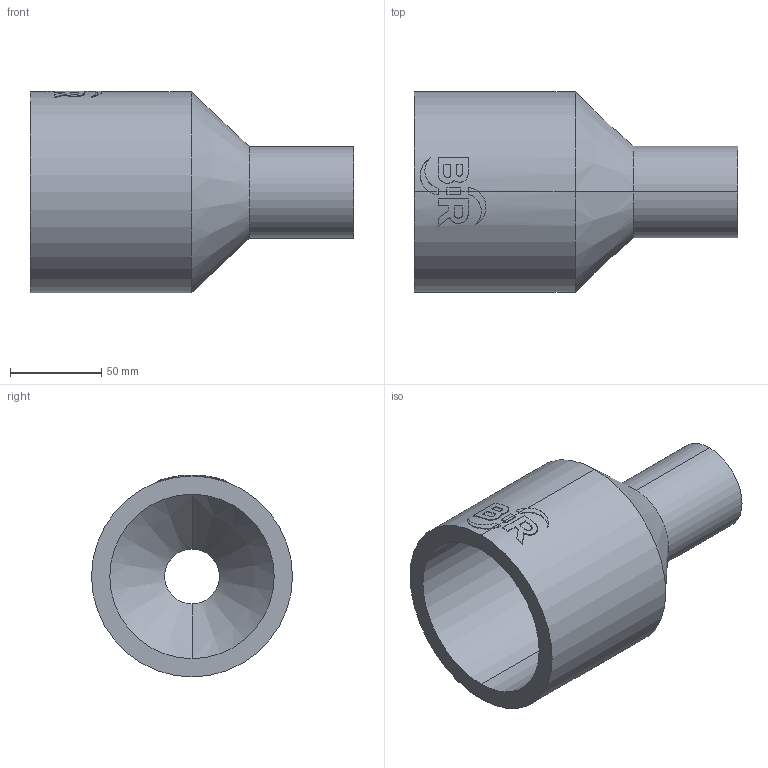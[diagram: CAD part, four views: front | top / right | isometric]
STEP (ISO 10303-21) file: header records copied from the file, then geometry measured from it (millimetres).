
FILE_DESCRIPTION (( 'STEP AP214' ), '1' );
FILE_NAME ('2323141035.STEP', '2018-07-20T11:58:14', ( '' ), ( '' ), 'SwSTEP 2.0', 'SolidWorks 2017', '' );
FILE_SCHEMA (( 'AUTOMOTIVE_DESIGN' ));
Length unit declared in the file: millimetre
Products named in the file (1): 2323141035
Bounding box: 177 x 110 x 110.46 mm (x, y, z)
Volume: 441044.3 mm3; surface area: 92712.3 mm2
Topology: 1 solids, 1 shells, 63 faces, 160 edges, 104 vertices
Faces by surface type: cylinder 31, plane 28, cone 4
Entity records: 3182 total; most frequent: CARTESIAN_POINT 973, ORIENTED_EDGE 320, DIRECTION 296, EDGE_CURVE 160, AXIS2_PLACEMENT_3D 112, VERTEX_POINT 104, LINE 72, VECTOR 72
